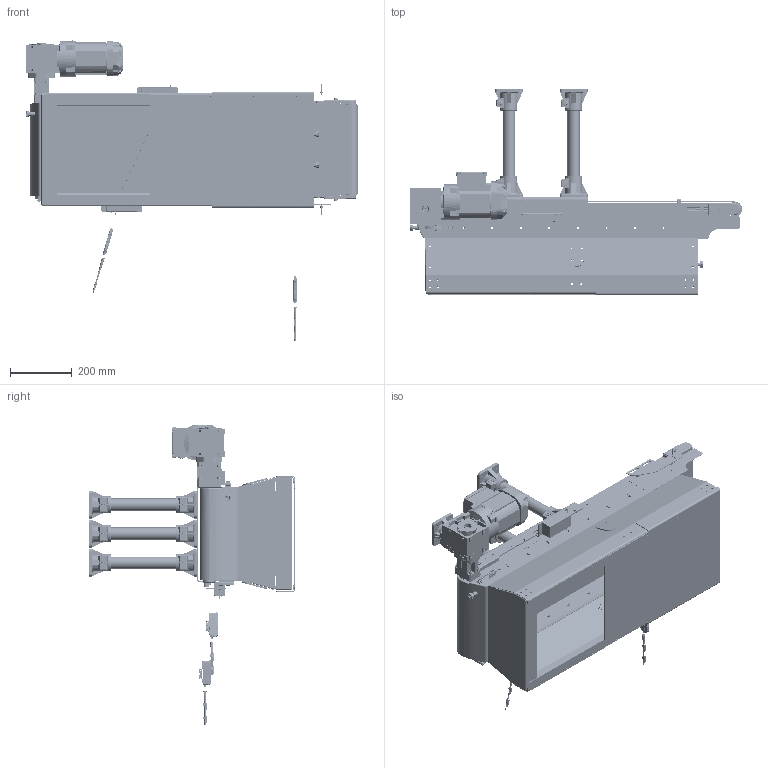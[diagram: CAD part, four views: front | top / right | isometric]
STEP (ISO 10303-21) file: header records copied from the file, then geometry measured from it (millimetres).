
FILE_DESCRIPTION (( 'STEP AP214' ), '1' );
FILE_NAME ('GM000852.STEP', '2023-09-26T08:19:02', ( '' ), ( '' ), 'SwSTEP 2.0', 'SolidWorks 2022', '' );
FILE_SCHEMA (( 'AUTOMOTIVE_DESIGN' ));
Length unit declared in the file: millimetre
Products named in the file (159): TIN4501-47^Azionamento F_Nastro Ima(2)_CM001137; NULL-15^Baugruppe1_DRN63M4_Drive_Azionamento F_Nastro Ima(2)_CM001137; BLS M6-31^Azionamento F_Nastro Ima(2)_CM001137; NULL^Baugruppe1_DRN63M4_Drive_Azionamento F_Nastro Ima(2)_CM001137; bearing-0^101235_Rinvio_Nastro Ima(2)_CM001137; BLS M6-7^Rinvio_Nastro Ima(2)_CM001137; Umlenkachse^101235_Rinvio_Nastro Ima(2)_CM001137; PD003402; TIN6008-4^Rinvio_Nastro Ima(2)_CM001137; 101897^Azionamento F_Nastro Ima(2)_CM001137; Copia di OP-88245^CE000511_ﾃﾞﾌｫﾙﾄ; CM000306_002; FAS4041-50^Telaio_Nastro Ima(2)_CM001137; ZKS NIKO M8X16-21^Azionamento F_Nastro Ima(2)_CM001137; Copia di Tappeto 195069^CM001421; PD002343; ZKS M6X25-34^Azionamento F_Nastro Ima(2)_CM001137; 101322-2^Rinvio_Nastro Ima(2)_CM001137; TIN6008-26^Azionamento F_Nastro Ima(2)_CM001137; Tracking Strip^Rinvio_Nastro Ima(2)_CM001137; PD004429; CM001137; Copia di Hinges CFM-L-B.50-63-SH-6-1.stp^CM001369; 1^101895_Azionamento F_Nastro Ima(2)_CM001137; Lamiera di scorrimento^Nastro Ima(2)_CM001137; Copia di Hinges with slotted holes CFM-L-B.50-63-SH-6-3.stp^CM001369; 101322^Rinvio_Nastro Ima(2)_CM001137; PD003409; FAS4041-52^Telaio_Nastro Ima(2)_CM001137; ZKS M6X25-32^Azionamento F_Nastro Ima(2)_CM001137; CE000512; PD003060; eBom-prt5^101235_Rinvio_Nastro Ima(2)_CM001137; Typ^Lamiera di scorrimento_Nastro Ima(2)_CM001137; NULL-14^Baugruppe1_DRN63M4_Drive_Azionamento F_Nastro Ima(2)_CM001137; PD006155; PIL4040SNN940-49^Telaio_Nastro Ima(2)_CM001137; SM000116; CM001267; Copia di FS-N41C^CE000511_ﾃﾞﾌｫﾙﾄ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
Assembly tree (195 placements, depth 8):
  GM000852
    CM000170  x2
    CM000058  x4
    CM001267  x2
    PD003398
    PD003394
    PD003399
    PD006168
    PD002343  x2
    PD002342  x2
    PD003401
    CM000432  x6
    PD003403
    PD003404
    PD003405
    PD006160
    PD003060  x2
    PD003408  x2
    PD003376  x4
    PD006154
    CM000306
      CM000306_001
      CM000306_002
      CM000306_003
    PD003419
    PD003409
    PD003411
    CM001137
      Nastro Ima(2)^CM001137
        Rinvio^Nastro Ima(2)_CM001137
          101235^Rinvio_Nastro Ima(2)_CM001137
            Umlenkachse^101235_Rinvio_Nastro Ima(2)_CM001137
            101235 Länge 0300^101235_Rinvio_Nastro Ima(2)_CM001137
            bearing^101235_Rinvio_Nastro Ima(2)_CM001137
            bearing-0^101235_Rinvio_Nastro Ima(2)_CM001137
            SIR014X1.0^101235_Rinvio_Nastro Ima(2)_CM001137
            eBom-prt5^101235_Rinvio_Nastro Ima(2)_CM001137
          101353^Rinvio_Nastro Ima(2)_CM001137
          101353-1^Rinvio_Nastro Ima(2)_CM001137
          101322^Rinvio_Nastro Ima(2)_CM001137
          101322-2^Rinvio_Nastro Ima(2)_CM001137
          ZKS NIKO M8X16^Rinvio_Nastro Ima(2)_CM001137
          TIN6008^Rinvio_Nastro Ima(2)_CM001137
          ZKS NIKO M8X16-3^Rinvio_Nastro Ima(2)_CM001137
          TIN6008-4^Rinvio_Nastro Ima(2)_CM001137
          ZKS NIKO M6X12^Rinvio_Nastro Ima(2)_CM001137
          BLS M6^Rinvio_Nastro Ima(2)_CM001137
          101539^Rinvio_Nastro Ima(2)_CM001137
          101539-5^Rinvio_Nastro Ima(2)_CM001137
          ZKS NIKO M6X12-6^Rinvio_Nastro Ima(2)_CM001137
          BLS M6-7^Rinvio_Nastro Ima(2)_CM001137
          TIN4501^Rinvio_Nastro Ima(2)_CM001137
          TIN4501-8^Rinvio_Nastro Ima(2)_CM001137
          Tracking Strip^Rinvio_Nastro Ima(2)_CM001137
        Azionamento F^Nastro Ima(2)_CM001137
          101895^Azionamento F_Nastro Ima(2)_CM001137
            101895-9^101895_Azionamento F_Nastro Ima(2)_CM001137
            1^101895_Azionamento F_Nastro Ima(2)_CM001137
            1-10^101895_Azionamento F_Nastro Ima(2)_CM001137
          Drive^Azionamento F_Nastro Ima(2)_CM001137
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Bounding box: 1075.1 x 666.12 x 981.25 mm (x, y, z)
Volume: 16356229.2 mm3; surface area: 8321956.9 mm2
Topology: 227 solids, 227 shells, 10476 faces, 27641 edges, 17931 vertices
Faces by surface type: plane 4949, cylinder 3758, bspline 691, cone 640, torus 371, sphere 67
Entity records: 249604 total; most frequent: CARTESIAN_POINT 66024, ORIENTED_EDGE 36110, DIRECTION 34645, EDGE_CURVE 18055, AXIS2_PLACEMENT_3D 12153, VERTEX_POINT 11732, LINE 10339, VECTOR 10339
